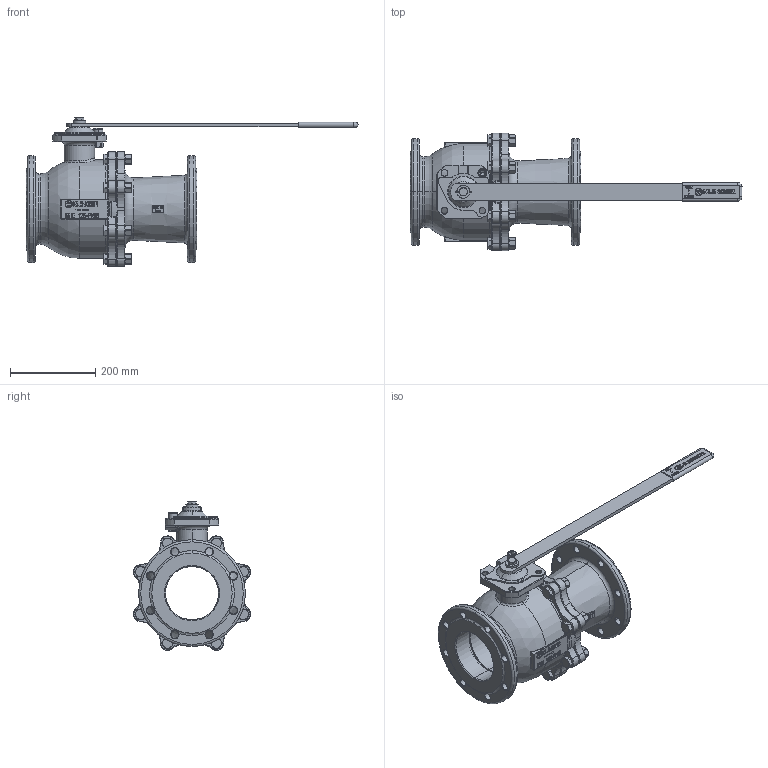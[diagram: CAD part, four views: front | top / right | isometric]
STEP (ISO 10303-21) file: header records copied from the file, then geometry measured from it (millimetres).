
FILE_DESCRIPTION((''),'2;1');
FILE_NAME('KHEFK125VFL125P016PHH','2015-08-10T',('mahrhauserh'),('RAND'),'PRO/ENGINEER BY PARAMETRIC TECHNOLOGY CORPORATION, 2013410','PRO/ENGINEER BY PARAMETRIC TECHNOLOGY CORPORATION, 2013410','');
FILE_SCHEMA(('CONFIG_CONTROL_DESIGN'));
Products named in the file (1): KHEFK125VFL125P016PHH
Bounding box: 777 x 274.21 x 347.84 mm (x, y, z)
Volume: 7900876 mm3; surface area: 1105019.2 mm2
Topology: 1 solids, 2 shells, 3322 faces, 8734 edges, 5559 vertices
Faces by surface type: plane 2036, cylinder 473, torus 355, cone 292, bspline 150, sphere 16
Entity records: 129043 total; most frequent: CARTESIAN_POINT 47185, ORIENTED_EDGE 17464, DIRECTION 16559, EDGE_CURVE 8732, VECTOR 5809, LINE 5809, VERTEX_POINT 5559, AXIS2_PLACEMENT_3D 5375
